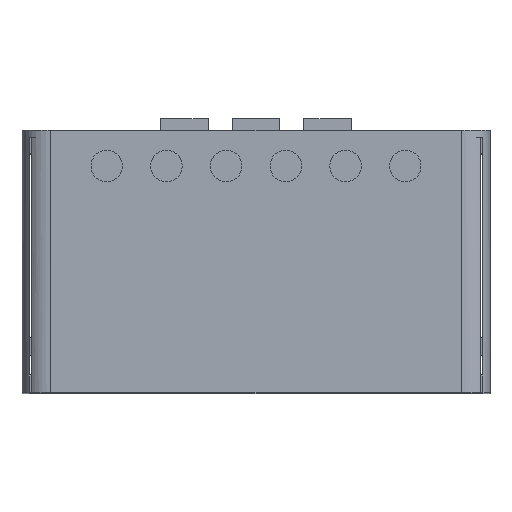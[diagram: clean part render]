
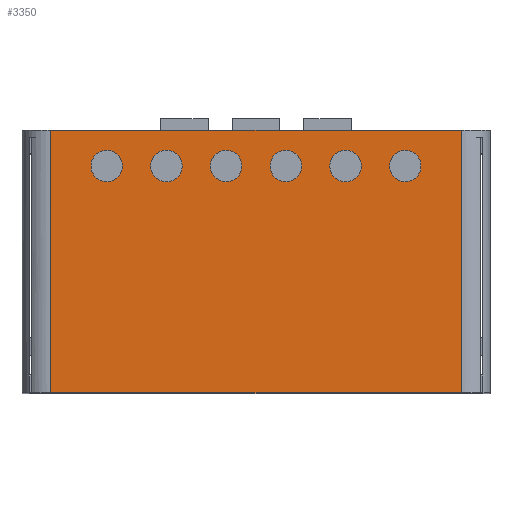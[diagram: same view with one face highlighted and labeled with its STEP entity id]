
A CAD part, top view. The second image highlights one B-rep face of the part: STEP entity #3350.
In plain terms, the highlighted planar face has unit normal (0, 0, 1).
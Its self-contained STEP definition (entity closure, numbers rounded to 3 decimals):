
#1052 = VERTEX_POINT('',#1053);
#1053 = CARTESIAN_POINT('',(-86.,-145.,330.));
#1060 = EDGE_CURVE('',#1052,#1061,#1063,.T.);
#1061 = VERTEX_POINT('',#1062);
#1062 = CARTESIAN_POINT('',(86.,-145.,330.));
#1063 = LINE('',#1064,#1065);
#1064 = CARTESIAN_POINT('',(-86.,-145.,330.));
#1065 = VECTOR('',#1066,1.);
#1066 = DIRECTION('',(1.,0.,-0.));
#1505 = EDGE_CURVE('',#1506,#1061,#1508,.T.);
#1506 = VERTEX_POINT('',#1507);
#1507 = CARTESIAN_POINT('',(86.,-255.,330.));
#1508 = LINE('',#1509,#1510);
#1509 = CARTESIAN_POINT('',(86.,-255.,330.));
#1510 = VECTOR('',#1511,1.);
#1511 = DIRECTION('',(-0.,1.,0.));
#3323 = VERTEX_POINT('',#3324);
#3324 = CARTESIAN_POINT('',(-86.,-255.,330.));
#3331 = EDGE_CURVE('',#3323,#1052,#3332,.T.);
#3332 = LINE('',#3333,#3334);
#3333 = CARTESIAN_POINT('',(-86.,-255.,330.));
#3334 = VECTOR('',#3335,1.);
#3335 = DIRECTION('',(-0.,1.,0.));
#3350 = ADVANCED_FACE('',(#3351,#3362,#3373,#3384,#3395,#3406,#3417),
  #3428,.T.);
#3351 = FACE_BOUND('',#3352,.T.);
#3352 = EDGE_LOOP('',(#3353,#3354,#3360,#3361));
#3353 = ORIENTED_EDGE('',*,*,#3331,.F.);
#3354 = ORIENTED_EDGE('',*,*,#3355,.T.);
#3355 = EDGE_CURVE('',#3323,#1506,#3356,.T.);
#3356 = LINE('',#3357,#3358);
#3357 = CARTESIAN_POINT('',(-86.,-255.,330.));
#3358 = VECTOR('',#3359,1.);
#3359 = DIRECTION('',(1.,0.,-0.));
#3360 = ORIENTED_EDGE('',*,*,#1505,.T.);
#3361 = ORIENTED_EDGE('',*,*,#1060,.F.);
#3362 = FACE_BOUND('',#3363,.T.);
#3363 = EDGE_LOOP('',(#3364));
#3364 = ORIENTED_EDGE('',*,*,#3365,.F.);
#3365 = EDGE_CURVE('',#3366,#3366,#3368,.T.);
#3366 = VERTEX_POINT('',#3367);
#3367 = CARTESIAN_POINT('',(-55.9,-160.,330.));
#3368 = CIRCLE('',#3369,6.6);
#3369 = AXIS2_PLACEMENT_3D('',#3370,#3371,#3372);
#3370 = CARTESIAN_POINT('',(-62.5,-160.,330.));
#3371 = DIRECTION('',(0.,0.,1.));
#3372 = DIRECTION('',(1.,0.,-0.));
#3373 = FACE_BOUND('',#3374,.T.);
#3374 = EDGE_LOOP('',(#3375));
#3375 = ORIENTED_EDGE('',*,*,#3376,.F.);
#3376 = EDGE_CURVE('',#3377,#3377,#3379,.T.);
#3377 = VERTEX_POINT('',#3378);
#3378 = CARTESIAN_POINT('',(-30.9,-160.,330.));
#3379 = CIRCLE('',#3380,6.6);
#3380 = AXIS2_PLACEMENT_3D('',#3381,#3382,#3383);
#3381 = CARTESIAN_POINT('',(-37.5,-160.,330.));
#3382 = DIRECTION('',(0.,0.,1.));
#3383 = DIRECTION('',(1.,0.,-0.));
#3384 = FACE_BOUND('',#3385,.T.);
#3385 = EDGE_LOOP('',(#3386));
#3386 = ORIENTED_EDGE('',*,*,#3387,.F.);
#3387 = EDGE_CURVE('',#3388,#3388,#3390,.T.);
#3388 = VERTEX_POINT('',#3389);
#3389 = CARTESIAN_POINT('',(-5.9,-160.,330.));
#3390 = CIRCLE('',#3391,6.6);
#3391 = AXIS2_PLACEMENT_3D('',#3392,#3393,#3394);
#3392 = CARTESIAN_POINT('',(-12.5,-160.,330.));
#3393 = DIRECTION('',(0.,0.,1.));
#3394 = DIRECTION('',(1.,0.,-0.));
#3395 = FACE_BOUND('',#3396,.T.);
#3396 = EDGE_LOOP('',(#3397));
#3397 = ORIENTED_EDGE('',*,*,#3398,.F.);
#3398 = EDGE_CURVE('',#3399,#3399,#3401,.T.);
#3399 = VERTEX_POINT('',#3400);
#3400 = CARTESIAN_POINT('',(19.1,-160.,330.));
#3401 = CIRCLE('',#3402,6.6);
#3402 = AXIS2_PLACEMENT_3D('',#3403,#3404,#3405);
#3403 = CARTESIAN_POINT('',(12.5,-160.,330.));
#3404 = DIRECTION('',(0.,0.,1.));
#3405 = DIRECTION('',(1.,0.,-0.));
#3406 = FACE_BOUND('',#3407,.T.);
#3407 = EDGE_LOOP('',(#3408));
#3408 = ORIENTED_EDGE('',*,*,#3409,.F.);
#3409 = EDGE_CURVE('',#3410,#3410,#3412,.T.);
#3410 = VERTEX_POINT('',#3411);
#3411 = CARTESIAN_POINT('',(44.1,-160.,330.));
#3412 = CIRCLE('',#3413,6.6);
#3413 = AXIS2_PLACEMENT_3D('',#3414,#3415,#3416);
#3414 = CARTESIAN_POINT('',(37.5,-160.,330.));
#3415 = DIRECTION('',(0.,0.,1.));
#3416 = DIRECTION('',(1.,0.,-0.));
#3417 = FACE_BOUND('',#3418,.T.);
#3418 = EDGE_LOOP('',(#3419));
#3419 = ORIENTED_EDGE('',*,*,#3420,.F.);
#3420 = EDGE_CURVE('',#3421,#3421,#3423,.T.);
#3421 = VERTEX_POINT('',#3422);
#3422 = CARTESIAN_POINT('',(69.1,-160.,330.));
#3423 = CIRCLE('',#3424,6.6);
#3424 = AXIS2_PLACEMENT_3D('',#3425,#3426,#3427);
#3425 = CARTESIAN_POINT('',(62.5,-160.,330.));
#3426 = DIRECTION('',(0.,0.,1.));
#3427 = DIRECTION('',(1.,0.,-0.));
#3428 = PLANE('',#3429);
#3429 = AXIS2_PLACEMENT_3D('',#3430,#3431,#3432);
#3430 = CARTESIAN_POINT('',(-86.,-255.,330.));
#3431 = DIRECTION('',(0.,0.,1.));
#3432 = DIRECTION('',(1.,0.,-0.));
